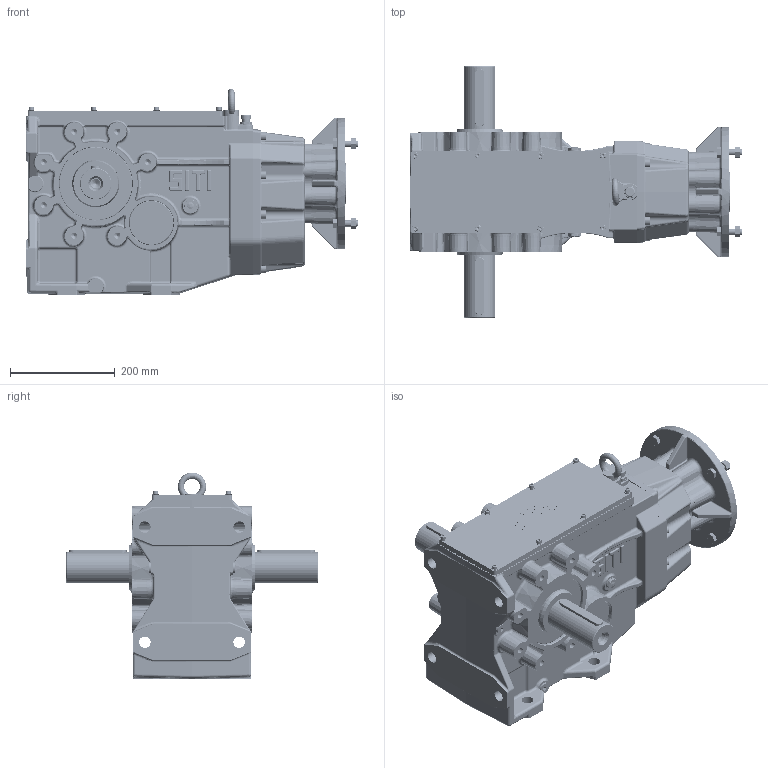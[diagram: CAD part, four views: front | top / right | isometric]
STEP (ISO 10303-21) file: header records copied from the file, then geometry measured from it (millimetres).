
FILE_DESCRIPTION((''),'2;1');
FILE_NAME('O:\Figurini\Figurini BH\3D\125\MBHGC 125 MD GR 100-112 B5.stp','2013-05-15T09:15:47',('d.iannaccio'),(''),'Autodesk Inventor 2012','Autodesk Inventor 2012','');
FILE_SCHEMA(('AUTOMOTIVE_DESIGN { 1 0 10303 214 1 1 1 1 }'));
Length unit declared in the file: millimetre
Products named in the file (1): MBHGC_125 MD GR 100-112 B5
Bounding box: 634.01 x 480 x 394.97 mm (x, y, z)
Volume: 11097864.5 mm3; surface area: 1995959.6 mm2
Topology: 69 solids, 75 shells, 4845 faces, 11530 edges, 6712 vertices
Faces by surface type: cylinder 1408, plane 1255, bspline 1065, torus 527, cone 364, sphere 226
Full cylindrical faces by diameter (mm): 4.917 x9, 6 x17, 6.4 x8, 6.647 x8, 7 x8, 8 x8, 8.376 x8, 9 x8, 10 x20, 10.106 x3, 11 x10, 11.835 x14, 12 x24, 12.5 x8, 13 x8, 14 x12, 14.95 x8, 16 x9, 17.835 x2, 18.95 x1, 19 x1, 19.07 x1, 19.5 x1, 20 x1, 21 x2, 22 x8, 25 x1, 30 x2, 37.5 x1, 39.386 x1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
Entity records: 172148 total; most frequent: CARTESIAN_POINT 64841, ORIENTED_EDGE 20892, DIRECTION 20790, EDGE_CURVE 10446, AXIS2_PLACEMENT_3D 8712, VERTEX_POINT 6458, EDGE_LOOP 5679, STYLED_ITEM 4913
